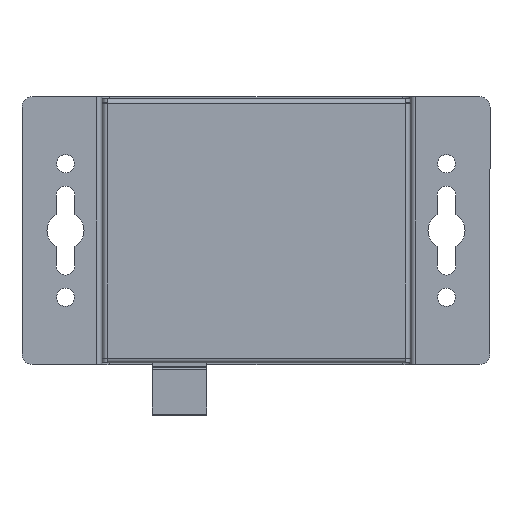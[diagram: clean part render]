
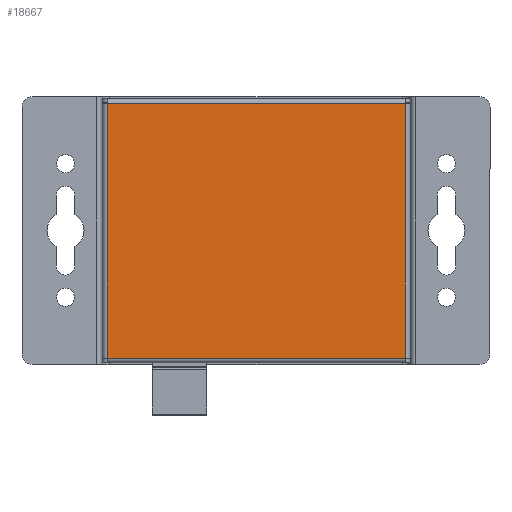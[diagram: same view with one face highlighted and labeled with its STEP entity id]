
A CAD part, front view. The second image highlights one B-rep face of the part: STEP entity #18667.
In plain terms, the highlighted planar face has unit normal (0, -1, 0).
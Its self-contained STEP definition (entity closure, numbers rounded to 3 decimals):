
#834=PLANE('',#20024);
#1928=FACE_OUTER_BOUND('',#2981,.T.);
#2981=EDGE_LOOP('',(#14959,#14960,#14961,#14962));
#4343=LINE('',#30450,#6382);
#4353=LINE('',#30493,#6392);
#4354=LINE('',#30495,#6393);
#4355=LINE('',#30496,#6394);
#6382=VECTOR('',#23022,10.);
#6392=VECTOR('',#23060,10.);
#6393=VECTOR('',#23061,10.);
#6394=VECTOR('',#23062,10.);
#8949=VERTEX_POINT('',#30443);
#8952=VERTEX_POINT('',#30448);
#8971=VERTEX_POINT('',#30492);
#8972=VERTEX_POINT('',#30494);
#11110=EDGE_CURVE('',#8952,#8949,#4343,.T.);
#11131=EDGE_CURVE('',#8952,#8971,#4353,.T.);
#11132=EDGE_CURVE('',#8971,#8972,#4354,.T.);
#11133=EDGE_CURVE('',#8972,#8949,#4355,.T.);
#14959=ORIENTED_EDGE('',*,*,#11110,.F.);
#14960=ORIENTED_EDGE('',*,*,#11131,.T.);
#14961=ORIENTED_EDGE('',*,*,#11132,.T.);
#14962=ORIENTED_EDGE('',*,*,#11133,.T.);
#18667=ADVANCED_FACE('',(#1928),#834,.F.);
#20024=AXIS2_PLACEMENT_3D('',#30491,#23058,#23059);
#23022=DIRECTION('',(0.,0.,-1.));
#23058=DIRECTION('center_axis',(0.,1.,0.));
#23059=DIRECTION('ref_axis',(0.,0.,1.));
#23060=DIRECTION('',(-1.,0.,0.));
#23061=DIRECTION('',(0.,0.,-1.));
#23062=DIRECTION('',(1.,0.,0.));
#30443=CARTESIAN_POINT('',(24.,0.,-28.1));
#30448=CARTESIAN_POINT('',(24.,0.,28.1));
#30450=CARTESIAN_POINT('',(24.,0.,-19.5));
#30491=CARTESIAN_POINT('Origin',(0.,0.,0.));
#30492=CARTESIAN_POINT('',(-24.,0.,28.1));
#30493=CARTESIAN_POINT('',(12.,0.,28.1));
#30494=CARTESIAN_POINT('',(-24.,0.,-28.1));
#30495=CARTESIAN_POINT('',(-24.,0.,29.));
#30496=CARTESIAN_POINT('',(-12.,0.,-28.1));
